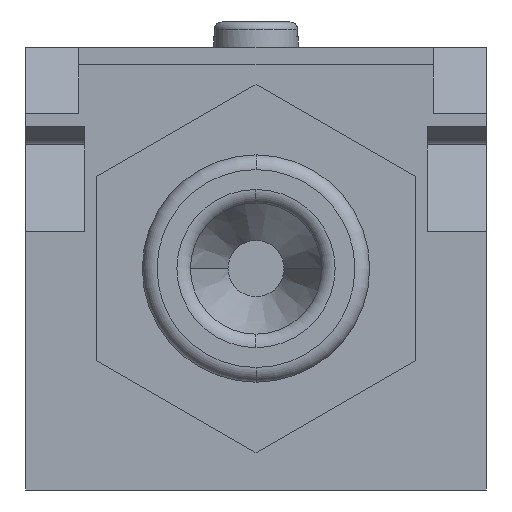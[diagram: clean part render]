
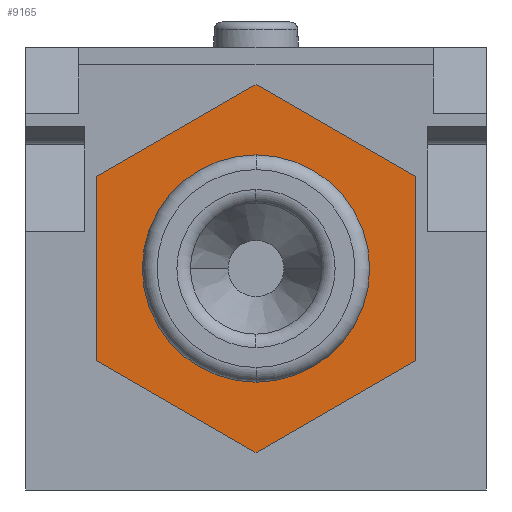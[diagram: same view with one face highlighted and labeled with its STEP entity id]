
A CAD part, front view. The second image highlights one B-rep face of the part: STEP entity #9165.
In plain terms, the highlighted planar face has unit normal (0, -1, 0).
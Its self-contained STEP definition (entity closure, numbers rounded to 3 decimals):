
#429 = EDGE_CURVE ( 'NONE', #3541, #3542, #5262, .T. ) ;
#431 = EDGE_CURVE ( 'NONE', #3540, #3541, #5268, .T. ) ;
#432 = EDGE_CURVE ( 'NONE', #3543, #3544, #5271, .T. ) ;
#433 = EDGE_CURVE ( 'NONE', #3544, #3545, #5274, .T. ) ;
#434 = EDGE_CURVE ( 'NONE', #3545, #3540, #5277, .T. ) ;
#435 = EDGE_CURVE ( 'NONE', #3542, #3543, #5280, .T. ) ;
#436 = EDGE_CURVE ( 'NONE', #1622, #1615, #3988, .T. ) ;
#1018 = EDGE_LOOP ( 'NONE', ( #1269, #1271, #1270, #1272, #1273, #1274 ) ) ;
#1019 = EDGE_LOOP ( 'NONE', ( #1276, #1277 ) ) ;
#1269 = ORIENTED_EDGE ( 'NONE', *, *, #431, .T. ) ;
#1270 = ORIENTED_EDGE ( 'NONE', *, *, #435, .T. ) ;
#1271 = ORIENTED_EDGE ( 'NONE', *, *, #429, .T. ) ;
#1272 = ORIENTED_EDGE ( 'NONE', *, *, #432, .T. ) ;
#1273 = ORIENTED_EDGE ( 'NONE', *, *, #433, .T. ) ;
#1274 = ORIENTED_EDGE ( 'NONE', *, *, #434, .T. ) ;
#1276 = ORIENTED_EDGE ( 'NONE', *, *, #436, .F. ) ;
#1277 = ORIENTED_EDGE ( 'NONE', *, *, #3786, .F. ) ;
#1615 = VERTEX_POINT ( 'NONE', #6426 ) ;
#1622 = VERTEX_POINT ( 'NONE', #6433 ) ;
#3540 = VERTEX_POINT ( 'NONE', #6540 ) ;
#3541 = VERTEX_POINT ( 'NONE', #6541 ) ;
#3542 = VERTEX_POINT ( 'NONE', #6542 ) ;
#3543 = VERTEX_POINT ( 'NONE', #6543 ) ;
#3544 = VERTEX_POINT ( 'NONE', #6544 ) ;
#3545 = VERTEX_POINT ( 'NONE', #6545 ) ;
#3786 = EDGE_CURVE ( 'NONE', #1615, #1622, #4056, .T. ) ;
#3988 = CIRCLE ( 'NONE', #5616, 7.7 ) ;
#4056 = CIRCLE ( 'NONE', #4303, 7.7 ) ;
#4303 = AXIS2_PLACEMENT_3D ( 'NONE', #7122, #7129, #7130 ) ;
#5246 = CARTESIAN_POINT ( 'NONE',  ( 0., -35.3, 0. ) ) ;
#5262 = LINE ( 'NONE', #5263, #5618 ) ;
#5263 = CARTESIAN_POINT ( 'NONE',  ( 0., -35.3, 12.471 ) ) ;
#5264 = DIRECTION ( 'NONE',  ( -0.866, 0., -0.5 ) ) ;
#5268 = LINE ( 'NONE', #5269, #5619 ) ;
#5269 = CARTESIAN_POINT ( 'NONE',  ( 10.8, -35.3, 6.235 ) ) ;
#5270 = DIRECTION ( 'NONE',  ( -0.866, 0., 0.5 ) ) ;
#5271 = LINE ( 'NONE', #5272, #5621 ) ;
#5272 = CARTESIAN_POINT ( 'NONE',  ( -10.8, -35.3, -6.235 ) ) ;
#5273 = DIRECTION ( 'NONE',  ( 0.866, 0., -0.5 ) ) ;
#5274 = LINE ( 'NONE', #5275, #5622 ) ;
#5275 = CARTESIAN_POINT ( 'NONE',  ( 0., -35.3, -12.471 ) ) ;
#5276 = DIRECTION ( 'NONE',  ( 0.866, 0., 0.5 ) ) ;
#5277 = LINE ( 'NONE', #5278, #5626 ) ;
#5278 = CARTESIAN_POINT ( 'NONE',  ( 10.8, -35.3, -6.235 ) ) ;
#5279 = DIRECTION ( 'NONE',  ( 0., 0., 1. ) ) ;
#5280 = LINE ( 'NONE', #5281, #5628 ) ;
#5281 = CARTESIAN_POINT ( 'NONE',  ( -10.8, -35.3, 6.235 ) ) ;
#5282 = DIRECTION ( 'NONE',  ( 0., 0., -1. ) ) ;
#5283 = DIRECTION ( 'NONE',  ( 0., -1., 0. ) ) ;
#5284 = DIRECTION ( 'NONE',  ( 0., 0., -1. ) ) ;
#5616 = AXIS2_PLACEMENT_3D ( 'NONE', #5246, #5283, #5284 ) ;
#5618 = VECTOR ( 'NONE', #5264, 1000. ) ;
#5619 = VECTOR ( 'NONE', #5270, 1000. ) ;
#5621 = VECTOR ( 'NONE', #5273, 1000. ) ;
#5622 = VECTOR ( 'NONE', #5276, 1000. ) ;
#5626 = VECTOR ( 'NONE', #5279, 1000. ) ;
#5628 = VECTOR ( 'NONE', #5282, 1000. ) ;
#5711 = AXIS2_PLACEMENT_3D ( 'NONE', #8946, #8947, #8948 ) ;
#5712 = FACE_OUTER_BOUND ( 'NONE', #1018, .T. ) ;
#5874 = FACE_BOUND ( 'NONE', #1019, .T. ) ;
#6426 = CARTESIAN_POINT ( 'NONE',  ( 0., -35.3, -7.7 ) ) ;
#6433 = CARTESIAN_POINT ( 'NONE',  ( 0., -35.3, 7.7 ) ) ;
#6540 = CARTESIAN_POINT ( 'NONE',  ( 10.8, -35.3, 6.235 ) ) ;
#6541 = CARTESIAN_POINT ( 'NONE',  ( 0., -35.3, 12.471 ) ) ;
#6542 = CARTESIAN_POINT ( 'NONE',  ( -10.8, -35.3, 6.235 ) ) ;
#6543 = CARTESIAN_POINT ( 'NONE',  ( -10.8, -35.3, -6.235 ) ) ;
#6544 = CARTESIAN_POINT ( 'NONE',  ( 0., -35.3, -12.471 ) ) ;
#6545 = CARTESIAN_POINT ( 'NONE',  ( 10.8, -35.3, -6.235 ) ) ;
#7122 = CARTESIAN_POINT ( 'NONE',  ( 0., -35.3, 0. ) ) ;
#7129 = DIRECTION ( 'NONE',  ( 0., -1., 0. ) ) ;
#7130 = DIRECTION ( 'NONE',  ( 0., 0., -1. ) ) ;
#8945 = PLANE ( 'NONE',  #5711 ) ;
#8946 = CARTESIAN_POINT ( 'NONE',  ( 0., -35.3, 0. ) ) ;
#8947 = DIRECTION ( 'NONE',  ( 0., -1., 0. ) ) ;
#8948 = DIRECTION ( 'NONE',  ( 0., 0., -1. ) ) ;
#9165 = ADVANCED_FACE ( 'NONE', ( #5712, #5874 ), #8945, .T. ) ;
